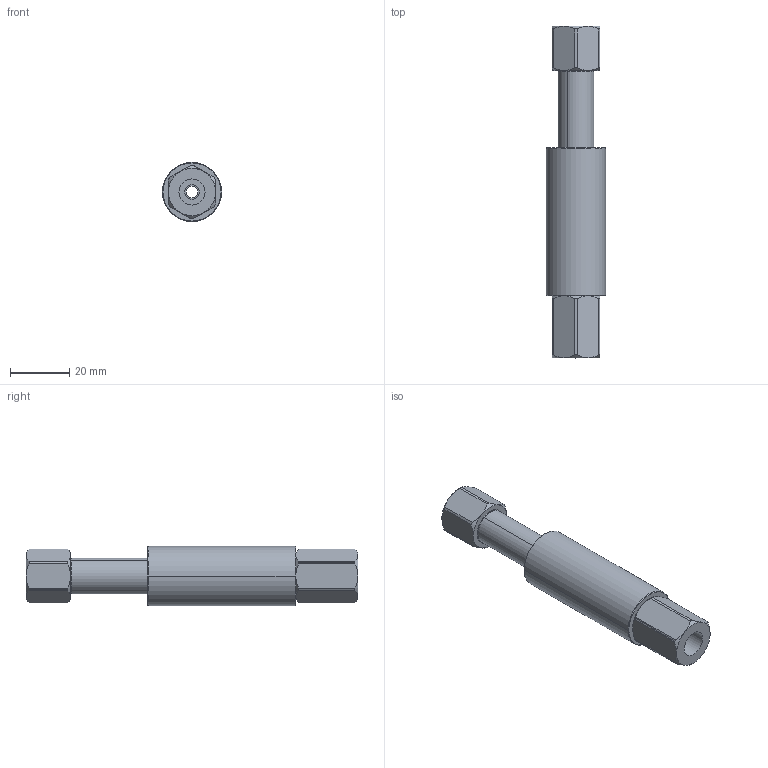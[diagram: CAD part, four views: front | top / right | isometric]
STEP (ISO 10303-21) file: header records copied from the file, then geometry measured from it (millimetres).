
FILE_DESCRIPTION (( 'STEP AP214' ), '1' );
FILE_NAME ('VFR2026-G18.STEP', '2019-11-15T06:02:59', ( '微软用户' ), ( '微软中国' ), 'SwSTEP 2.0', 'SolidWorks 2016', '' );
FILE_SCHEMA (( 'AUTOMOTIVE_DESIGN' ));
Length unit declared in the file: millimetre
Products named in the file (1): VFR2026-G18
Bounding box: 20 x 112 x 20 mm (x, y, z)
Volume: 22515.6 mm3; surface area: 13014.7 mm2
Topology: 3 solids, 3 shells, 144 faces, 332 edges, 200 vertices
Faces by surface type: cone 64, cylinder 52, plane 24, bspline 4
Entity records: 6323 total; most frequent: CARTESIAN_POINT 1409, DIRECTION 730, ORIENTED_EDGE 664, EDGE_CURVE 332, AXIS2_PLACEMENT_3D 313, VERTEX_POINT 200, CIRCLE 172, EDGE_LOOP 156
